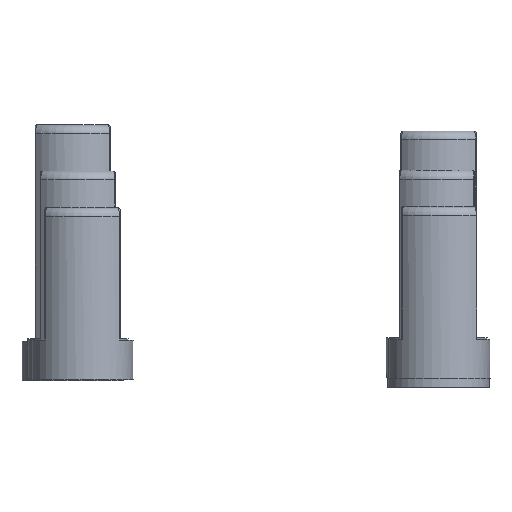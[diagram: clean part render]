
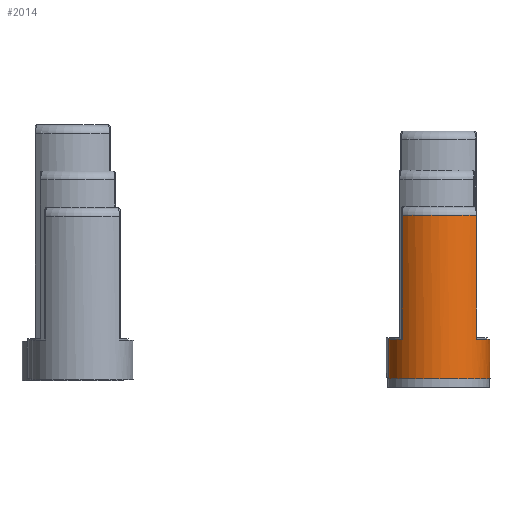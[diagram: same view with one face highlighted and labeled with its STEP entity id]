
A CAD part, front view. The second image highlights one B-rep face of the part: STEP entity #2014.
In plain terms, the highlighted cylindrical face has radius 11.5 mm (diameter 23 mm), a full revolution.
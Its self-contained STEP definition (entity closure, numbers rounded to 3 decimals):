
#76=FACE_BOUND('',#424,.T.);
#274=FACE_OUTER_BOUND('',#423,.T.);
#423=EDGE_LOOP('',(#1432,#1433,#1434,#1435,#1436,#1437,#1438,#1439));
#424=EDGE_LOOP('',(#1440));
#587=LINE('',#3032,#671);
#591=LINE('',#3136,#675);
#594=LINE('',#3162,#678);
#598=LINE('',#3266,#682);
#671=VECTOR('',#2418,28.);
#675=VECTOR('',#2436,28.);
#678=VECTOR('',#2445,28.);
#682=VECTOR('',#2463,28.);
#772=CIRCLE('',#2178,11.5);
#773=CIRCLE('',#2180,11.5);
#774=CIRCLE('',#2181,11.5);
#775=CIRCLE('',#2182,11.5);
#776=CIRCLE('',#2183,11.5);
#894=VERTEX_POINT('',#3029);
#895=VERTEX_POINT('',#3031);
#902=VERTEX_POINT('',#3118);
#904=VERTEX_POINT('',#3134);
#907=VERTEX_POINT('',#3159);
#908=VERTEX_POINT('',#3161);
#915=VERTEX_POINT('',#3248);
#917=VERTEX_POINT('',#3264);
#923=VERTEX_POINT('',#3306);
#1080=EDGE_CURVE('',#894,#895,#587,.T.);
#1093=EDGE_CURVE('',#904,#902,#591,.T.);
#1098=EDGE_CURVE('',#907,#908,#594,.T.);
#1111=EDGE_CURVE('',#917,#915,#598,.T.);
#1120=EDGE_CURVE('',#915,#894,#772,.T.);
#1121=EDGE_CURVE('',#895,#904,#773,.T.);
#1122=EDGE_CURVE('',#908,#917,#774,.T.);
#1123=EDGE_CURVE('',#902,#907,#775,.T.);
#1124=EDGE_CURVE('',#923,#923,#776,.T.);
#1432=ORIENTED_EDGE('',*,*,#1121,.F.);
#1433=ORIENTED_EDGE('',*,*,#1080,.F.);
#1434=ORIENTED_EDGE('',*,*,#1120,.F.);
#1435=ORIENTED_EDGE('',*,*,#1111,.F.);
#1436=ORIENTED_EDGE('',*,*,#1122,.F.);
#1437=ORIENTED_EDGE('',*,*,#1098,.F.);
#1438=ORIENTED_EDGE('',*,*,#1123,.F.);
#1439=ORIENTED_EDGE('',*,*,#1093,.F.);
#1440=ORIENTED_EDGE('',*,*,#1124,.F.);
#1951=CYLINDRICAL_SURFACE('',#2179,11.5);
#2014=ADVANCED_FACE('',(#274,#76),#1951,.T.);
#2178=AXIS2_PLACEMENT_3D('',#3301,#2488,#2489);
#2179=AXIS2_PLACEMENT_3D('',#3302,#2490,#2491);
#2180=AXIS2_PLACEMENT_3D('',#3303,#2492,#2493);
#2181=AXIS2_PLACEMENT_3D('',#3304,#2494,#2495);
#2182=AXIS2_PLACEMENT_3D('',#3305,#2496,#2497);
#2183=AXIS2_PLACEMENT_3D('',#3307,#2498,#2499);
#2418=DIRECTION('',(0.,0.,-1.));
#2436=DIRECTION('',(0.,0.,1.));
#2445=DIRECTION('',(0.,0.,-1.));
#2463=DIRECTION('',(0.,0.,1.));
#2488=DIRECTION('center_axis',(0.,0.,1.));
#2489=DIRECTION('ref_axis',(0.,1.,0.));
#2490=DIRECTION('center_axis',(0.,0.,1.));
#2491=DIRECTION('ref_axis',(-1.,0.,0.));
#2492=DIRECTION('center_axis',(0.,0.,1.));
#2493=DIRECTION('ref_axis',(-1.,0.,0.));
#2494=DIRECTION('center_axis',(0.,0.,1.));
#2495=DIRECTION('ref_axis',(-1.,0.,0.));
#2496=DIRECTION('center_axis',(0.,0.,1.));
#2497=DIRECTION('ref_axis',(0.,-1.,0.));
#2498=DIRECTION('center_axis',(0.,0.,-1.));
#2499=DIRECTION('ref_axis',(-1.,0.,0.));
#3029=CARTESIAN_POINT('',(-8.364,7.893,37.));
#3031=CARTESIAN_POINT('',(-8.364,7.893,9.));
#3032=CARTESIAN_POINT('',(-8.364,7.893,0.));
#3118=CARTESIAN_POINT('',(-8.364,-7.893,37.));
#3134=CARTESIAN_POINT('',(-8.364,-7.893,9.));
#3136=CARTESIAN_POINT('',(-8.364,-7.893,0.));
#3159=CARTESIAN_POINT('',(8.364,-7.893,37.));
#3161=CARTESIAN_POINT('',(8.364,-7.893,9.));
#3162=CARTESIAN_POINT('',(8.364,-7.893,0.));
#3248=CARTESIAN_POINT('',(8.364,7.893,37.));
#3264=CARTESIAN_POINT('',(8.364,7.893,9.));
#3266=CARTESIAN_POINT('',(8.364,7.893,0.));
#3301=CARTESIAN_POINT('Origin',(0.,0.,37.));
#3302=CARTESIAN_POINT('Origin',(0.,0.,0.));
#3303=CARTESIAN_POINT('Origin',(0.,0.,9.));
#3304=CARTESIAN_POINT('Origin',(0.,0.,9.));
#3305=CARTESIAN_POINT('Origin',(0.,0.,37.));
#3306=CARTESIAN_POINT('',(11.5,0.,0.));
#3307=CARTESIAN_POINT('Origin',(0.,0.,0.));
